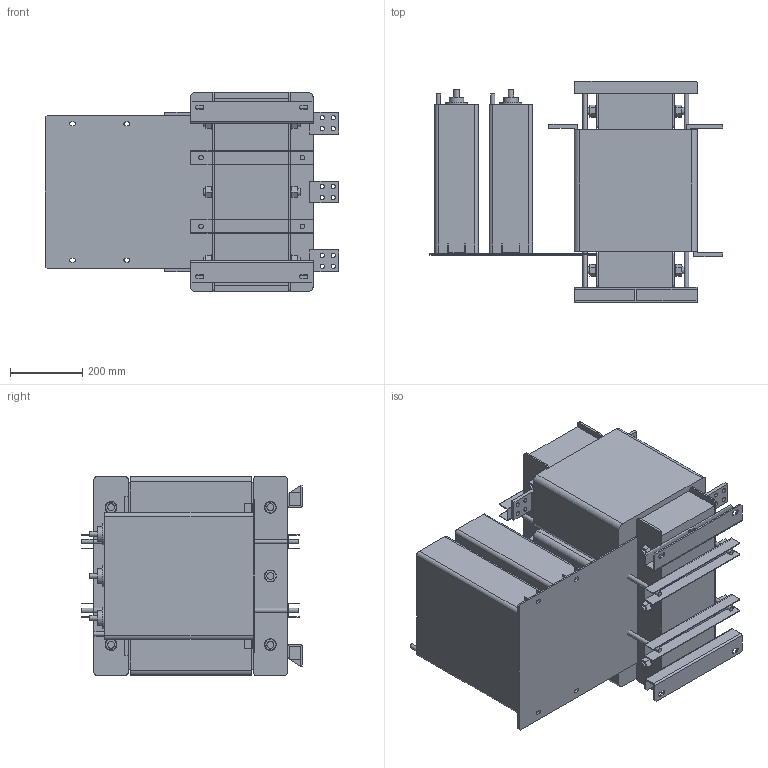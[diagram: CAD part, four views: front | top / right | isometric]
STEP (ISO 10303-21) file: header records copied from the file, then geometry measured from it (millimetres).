
FILE_DESCRIPTION(/* description */ (''),/* implementation_level */ '2;1');
FILE_NAME(/* name */ 'Sin-T6-900.stp',/* time_stamp */ '2025-02-25T11:06:55+04:00',/* author */ ('Лео'),/* organization */ (''),/* preprocessor_version */ 'ST-DEVELOPER v19.2',/* originating_system */ 'Autodesk Inventor 2024',/* authorisation */ '');
FILE_SCHEMA (('AUTOMOTIVE_DESIGN { 1 0 10303 214 3 1 1 }'));
Length unit declared in the file: millimetre
Products named in the file (1): Sin-T6-900
Bounding box: 810 x 610 x 550 mm (x, y, z)
Volume: 117358086.1 mm3; surface area: 4210228.4 mm2
Topology: 26 solids, 26 shells, 665 faces, 1532 edges, 964 vertices
Faces by surface type: plane 501, cylinder 164
Full cylindrical faces by diameter (mm): 12 x38, 13 x12, 15 x6, 19 x12, 32.562 x12, 40 x6, 60 x6
Entity records: 18780 total; most frequent: DIRECTION 3264, CARTESIAN_POINT 3162, ORIENTED_EDGE 3064, EDGE_CURVE 1532, LINE 1132, VECTOR 1132, AXIS2_PLACEMENT_3D 1066, VERTEX_POINT 964
